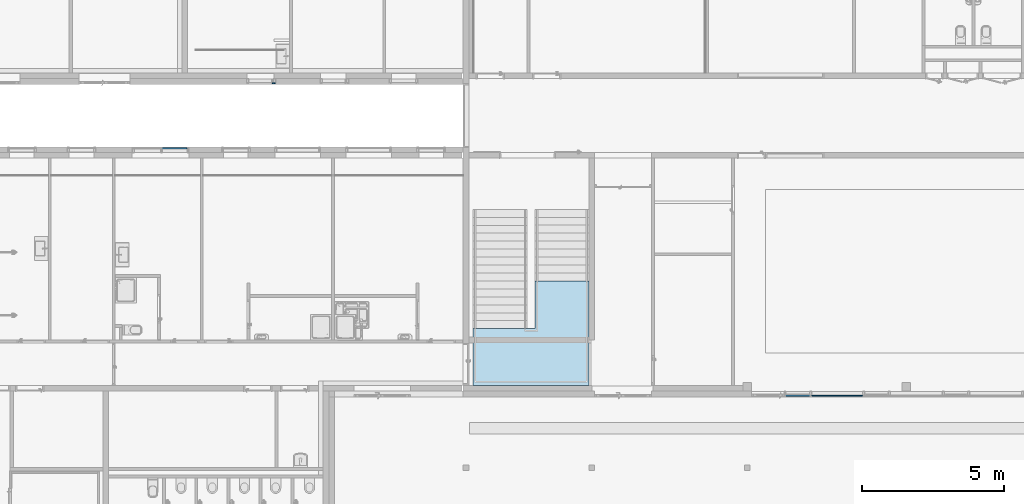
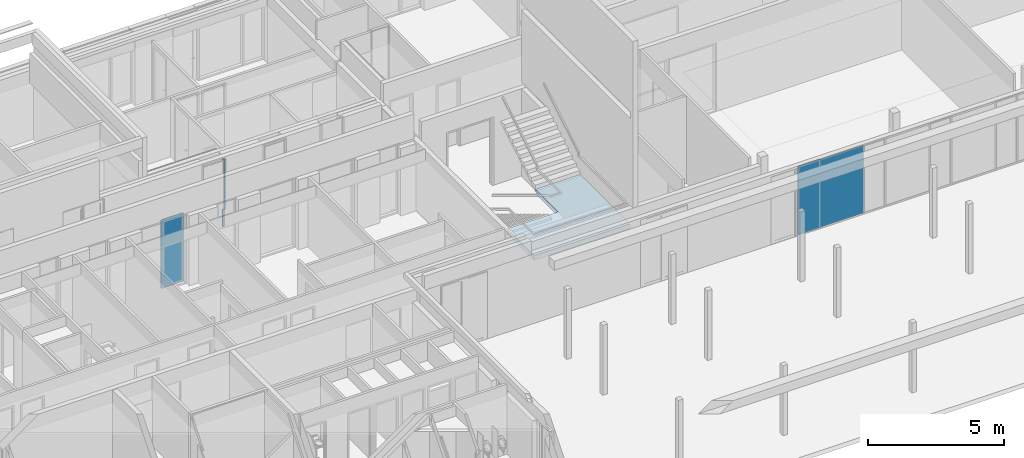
# One storey, part 178 of 240: 3 plates, 1 slab, 4 elements without a shape of their own.
"""IFC2X3 building model written with IfcOpenShell, lengths in centimetres."""

from ifc_helpers import new_model, entity, si_unit, converted_unit, derived_unit, direction, frame, origin, place, context, subcontext, project, spatial, face_set, faceted_brep, surface_model, source, transform, mapped, material, layer, layer_set, type_object, type_shapes, element, aggregate, save


model = new_model("IFC2X3")

# Units and contexts
model_context = context("Model", 3, precision=0.001, world=origin(), true_north=direction((6.12303176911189e-17, 1.0)))
body_context = subcontext(model_context, "Body", "Model", "MODEL_VIEW")
ifc_project = project(units=[si_unit("LENGTHUNIT", "METRE", prefix="CENTI"), si_unit("AREAUNIT", "SQUARE_METRE"), si_unit("VOLUMEUNIT", "CUBIC_METRE"), converted_unit("PLANEANGLEUNIT", "DEGREE", entity("IfcRatioMeasure", 0.0174532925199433), si_unit("PLANEANGLEUNIT", "RADIAN"), dimensions=[0, 0, 0, 0, 0, 0, 0]), si_unit("MASSUNIT", "GRAM", prefix="KILO"), derived_unit("MASSDENSITYUNIT", [(si_unit("MASSUNIT", "GRAM", prefix="KILO"), 1), (si_unit("LENGTHUNIT", "METRE"), -3)]), si_unit("TIMEUNIT", "SECOND"), si_unit("FREQUENCYUNIT", "HERTZ"), si_unit("THERMODYNAMICTEMPERATUREUNIT", "DEGREE_CELSIUS"), derived_unit("THERMALTRANSMITTANCEUNIT", [(si_unit("MASSUNIT", "GRAM", prefix="KILO"), 1), (si_unit("THERMODYNAMICTEMPERATUREUNIT", "KELVIN"), -1), (si_unit("TIMEUNIT", "SECOND"), -3)]), derived_unit("VOLUMETRICFLOWRATEUNIT", [(si_unit("LENGTHUNIT", "METRE"), 3), (si_unit("TIMEUNIT", "SECOND"), -1)]), si_unit("ELECTRICCURRENTUNIT", "AMPERE"), si_unit("ELECTRICVOLTAGEUNIT", "VOLT"), si_unit("POWERUNIT", "WATT"), si_unit("FORCEUNIT", "NEWTON", prefix="KILO"), si_unit("ILLUMINANCEUNIT", "LUX"), si_unit("LUMINOUSFLUXUNIT", "LUMEN"), si_unit("LUMINOUSINTENSITYUNIT", "CANDELA"), derived_unit("USERDEFINED", [(si_unit("MASSUNIT", "GRAM", prefix="KILO"), -1), (si_unit("LENGTHUNIT", "METRE"), -2), (si_unit("TIMEUNIT", "SECOND"), 3), (si_unit("LUMINOUSFLUXUNIT", "LUMEN"), 1)]), derived_unit("LINEARVELOCITYUNIT", [(si_unit("LENGTHUNIT", "METRE"), 1), (si_unit("TIMEUNIT", "SECOND"), -1)]), si_unit("PRESSUREUNIT", "PASCAL"), derived_unit("USERDEFINED", [(si_unit("LENGTHUNIT", "METRE"), -2), (si_unit("MASSUNIT", "GRAM", prefix="KILO"), 1), (si_unit("TIMEUNIT", "SECOND"), -2)])], contexts=[model_context])

# Site, building, storey
site_placement = place(None, frame((-2781.94577612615, 7442.24238424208, 0.0)))
site = spatial("IfcSite", under=ifc_project, at=site_placement, Name="Default", CompositionType="ELEMENT")
building_placement = place(site_placement, origin())
building = spatial("IfcBuilding", under=site, at=building_placement, CompositionType="ELEMENT")
storey_placement = place(building_placement, origin())
storey = spatial("IfcBuildingStorey", under=building, at=storey_placement, Name="N00 - COO", CompositionType="ELEMENT", Elevation=0.0)

# Curtain wall, plate
curtain_wall_type_1 = type_object("IfcCurtainWallType", Name="Mur-rideau:07 - mur rideau trame 280 cm", PredefinedType="NOTDEFINED")
curtain_wall_1_placement = place(building_placement, origin())
curtain_wall_1 = element("IfcCurtainWall", 1, at=curtain_wall_1_placement, inside=storey, type_object=curtain_wall_type_1, Name="Mur-rideau:07 - mur rideau trame 280 cm", ObjectType="Mur-rideau:07 - mur rideau trame 280 cm")
ifc_material_1 = material(Name="Verre")
ifc_layer = layer(ifc_material_1, 4.0)
ifc_layer_set = layer_set([ifc_layer], Name="Panneau système:Vitré")
plate_type_1 = type_object("IfcPlateType", Name="Vitré", PredefinedType="CURTAIN_PANEL", material=ifc_layer_set)
shared_shape_1 = source(origin(), body_context, "Body", "Brep", [
    faceted_brep([(-136.63750001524, -2.0, 1.73749999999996), (138.375000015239, -2.0, 1.73749999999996), (138.375000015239, -2.0, 304.5), (-136.63750001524, -2.0, 304.5), (-136.63750001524, 2.0, 1.73749999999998), (-136.63750001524, 2.0, 304.5), (138.375000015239, 2.0, 304.5), (138.375000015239, 2.0, 1.73749999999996), (-46.6375000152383, 2.0, 0.0), (-46.6375000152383, 2.0, 307.7375), (-138.375000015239, 2.0, 307.7375), (-138.375000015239, 2.0, 0.0), (-138.375000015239, -2.0, 0.0), (-46.6375000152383, -2.0, 0.0), (-138.375000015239, -2.0, 307.7375), (-46.6375000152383, -2.0, 307.7375)], [[[0, 1, 2, 3]], [[4, 5, 6, 7], [8, 9, 10, 11]], [[1, 0, 4, 7]], [[2, 1, 7, 6]], [[3, 2, 6, 5]], [[0, 3, 5, 4]], [[12, 13, 8, 11]], [[14, 12, 11, 10]], [[15, 14, 10, 9]], [[13, 15, 9, 8]], [[13, 12, 14, 15]]]),
])
type_shapes(plate_type_1, [shared_shape_1])
plate_1_placement = place(curtain_wall_1_placement, frame((-7158.74362761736, -1946.27903364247, 2.38125000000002)))
plate_1 = element("IfcPlate", 2, at=plate_1_placement, type_object=plate_type_1, material=ifc_material_1, Name="Panneau système:Vitré", ObjectType="Panneau système:Vitré", context=body_context, shape_type="MappedRepresentation", body=[
    mapped(shared_shape_1, transform((0.0, 0.0, 0.0), scale=1.0)),
])
aggregate(curtain_wall_1, [plate_1])

curtain_wall_type_2 = type_object("IfcCurtainWallType", Name="Mur-rideau:07 - mur rideau trame 100cm", PredefinedType="NOTDEFINED")
curtain_wall_2_placement = place(building_placement, origin())
curtain_wall_2 = element("IfcCurtainWall", 3, at=curtain_wall_2_placement, inside=storey, type_object=curtain_wall_type_2, Name="Mur-rideau:07 - mur rideau trame 100cm", ObjectType="Mur-rideau:07 - mur rideau trame 100cm")
plate_type_2 = type_object("IfcPlateType", Name="Vitré", PredefinedType="CURTAIN_PANEL", material=ifc_layer_set)
shared_shape_2 = source(origin(), body_context, "Body", "Brep", [
    faceted_brep([(-47.9406249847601, -2.0, 1.73749999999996), (47.9406249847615, -2.0, 1.73749999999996), (47.9406249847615, -2.0, 306.0), (-47.9406249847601, -2.0, 306.0), (45.5593749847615, -2.0, 0.0), (-45.559375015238, -2.0, 0.0), (-45.559375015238, -2.0, 307.7375), (45.5593749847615, -2.0, 307.7375), (-47.9406249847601, 2.0, 1.73749999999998), (-47.9406249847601, 2.0, 306.0), (47.9406249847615, 2.0, 306.0), (47.9406249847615, 2.0, 1.73749999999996), (45.5593749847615, 2.0, 0.0), (45.5593749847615, 2.0, 307.7375), (-45.559375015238, 2.0, 307.7375), (-45.559375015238, 2.0, 0.0)], [[[0, 1, 2, 3], [4, 5, 6, 7]], [[8, 9, 10, 11], [12, 13, 14, 15]], [[1, 0, 8, 11]], [[2, 1, 11, 10]], [[3, 2, 10, 9]], [[0, 3, 9, 8]], [[5, 4, 12, 15]], [[6, 5, 15, 14]], [[7, 6, 14, 13]], [[4, 7, 13, 12]]]),
])
type_shapes(plate_type_2, [shared_shape_2])
plate_2_placement = place(curtain_wall_2_placement, frame((-9446.55925265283, -1074.89999990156, 2.38125000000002)))
plate_2 = element("IfcPlate", 4, at=plate_2_placement, type_object=plate_type_2, material=ifc_material_1, Name="Panneau système:Vitré", ObjectType="Panneau système:Vitré", context=body_context, shape_type="MappedRepresentation", body=[
    mapped(shared_shape_2, transform((0.0, 0.0, 0.0), scale=1.0)),
])
aggregate(curtain_wall_2, [plate_2])

curtain_wall_type_3 = type_object("IfcCurtainWallType", Name="Mur-rideau:07 - mur rideau trame 90 cm", PredefinedType="NOTDEFINED")
curtain_wall_3_placement = place(storey_placement, origin())
curtain_wall_3 = element("IfcCurtainWall", 5, at=curtain_wall_3_placement, inside=storey, type_object=curtain_wall_type_3, Name="Mur-rideau:07 - mur rideau trame 90 cm", ObjectType="Mur-rideau:07 - mur rideau trame 90 cm")
plate_type_3 = type_object("IfcPlateType", Name="Vitré", PredefinedType="CURTAIN_PANEL", material=ifc_layer_set)
shared_shape_3 = source(origin(), body_context, "Body", "SurfaceModel", [
    surface_model("IfcFaceBasedSurfaceModel", [(-5.03272422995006, -2.0, 0.0), (0.848525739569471, -2.0, 0.0), (0.848525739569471, -2.0, 302.762499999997), (-4.16397422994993, -2.0, 302.762499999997), (-4.16397422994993, -2.0, 299.88125), (5.03272422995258, -2.0, 299.88125), (5.03272422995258, -2.0, 75.8812499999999), (-5.03272422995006, -2.0, 75.8812499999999), (-5.03272422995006, 2.0, 0.0), (-5.03272422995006, 2.0, 75.8812499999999), (5.03272422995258, 2.0, 75.8812499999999), (5.03272422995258, 2.0, 299.88125), (-4.16397422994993, 2.0, 299.88125), (-4.16397422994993, 2.0, 302.762499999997), (0.848525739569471, 2.0, 302.762499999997), (0.848525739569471, 2.0, 0.0)], [face_set([[[0, 1, 2, 3, 4, 5, 6, 7]], [[8, 9, 10, 11, 12, 13, 14, 15]], [[1, 0, 8, 15]], [[2, 1, 15, 14]], [[3, 2, 14, 13]], [[4, 3, 13, 12]], [[5, 11, 12, 4]], [[6, 10, 11, 5]], [[7, 6, 10, 9]], [[0, 7, 9, 8]]])]),
])
type_shapes(plate_type_3, [shared_shape_3])
plate_3_placement = place(curtain_wall_3_placement, frame((-9095.96715334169, -846.34850098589, 4.11874999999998)))
plate_3 = element("IfcPlate", 6, at=plate_3_placement, type_object=plate_type_3, Name="Panneau système:Vitré", ObjectType="Panneau système:Vitré", context=body_context, shape_type="MappedRepresentation", body=[
    mapped(shared_shape_3, transform((0.0, 0.0, 0.0), scale=1.0)),
])
aggregate(curtain_wall_3, [plate_3])

# Stair, slab
stair_placement = place(storey_placement, origin())
stair = element("IfcStair", 7, at=stair_placement, inside=storey, Name="Escalier coulé sur place:Escalier", ObjectType="Escalier coulé sur place:Monobloc", ShapeType="NOTDEFINED")
ifc_material_2 = material(Name="Maçonnerie - Béton")
slab_placement = place(stair_placement, frame((-8394.19987766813, -1910.07903364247, 0.0)))
slab = element("IfcSlab", 8, at=slab_placement, material=ifc_material_2, Name="Escalier coulé sur place:Escalier:549644 Landing 1", ObjectType="Palier monobloc:Epaisseur 150 mm", PredefinedType="LANDING", context=body_context, shape_type="Brep", body=[
    faceted_brep([(190.0, 200.0, 270.08), (0.0, 200.0, 270.08), (0.0, 189.680302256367, 270.08), (0.0, 0.0, 270.08), (407.700000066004, 0.0, 270.08), (407.700000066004, 350.398731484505, 270.08), (407.700000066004, 368.079033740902, 270.08), (217.700000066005, 368.079033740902, 270.08), (217.700000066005, 350.398731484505, 270.08), (217.700000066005, 200.0, 270.08), (0.0, 200.0, 253.2), (0.0, 200.0, 243.858696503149), (0.0, 189.680302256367, 250.08), (0.0, 0.0, 250.08), (407.700000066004, 0.0, 250.08), (217.700000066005, 368.079033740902, 260.738696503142), (217.700000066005, 350.398731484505, 250.08), (217.700000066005, 200.0, 250.08), (190.0, 189.680302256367, 250.08), (190.0, 200.0, 250.08), (407.700000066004, 350.398731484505, 250.08), (190.0, 200.0, 243.858696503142), (407.700000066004, 368.079033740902, 260.738696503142)], [[[0, 1, 2, 3, 4, 5, 6, 7, 8, 9]], [[1, 10, 11, 12, 13, 3, 2]], [[4, 3, 13, 14]], [[7, 15, 16, 17, 9, 8]], [[12, 18, 19, 17, 16, 20, 14, 13]], [[18, 12, 11, 21]], [[19, 18, 21]], [[20, 16, 15, 22]], [[1, 0, 19, 21, 11, 10]], [[4, 14, 20, 22, 6, 5]], [[7, 6, 22, 15]], [[0, 9, 17, 19]]]),
])
aggregate(stair, [slab])

save(model, "model.ifc")
